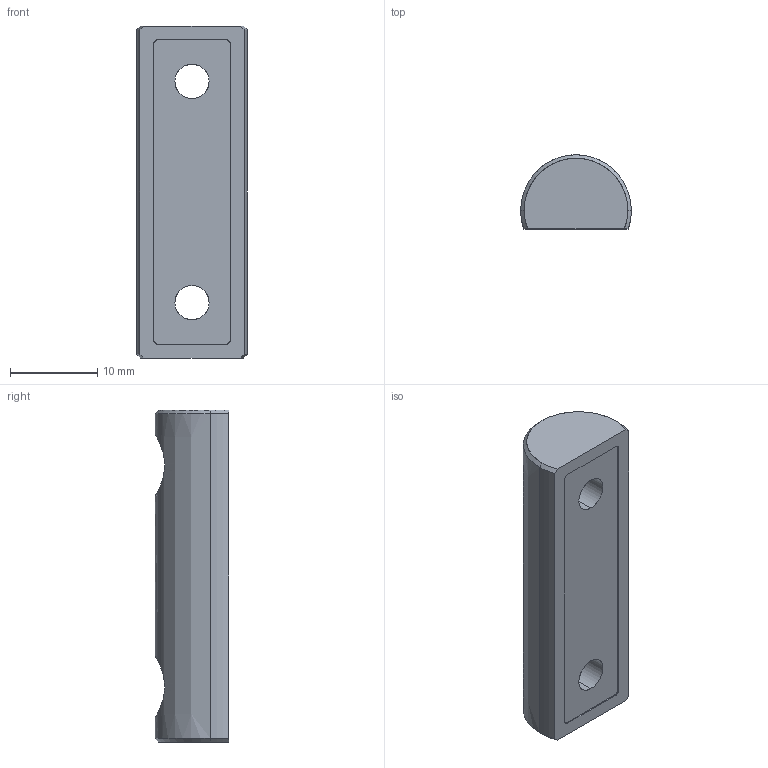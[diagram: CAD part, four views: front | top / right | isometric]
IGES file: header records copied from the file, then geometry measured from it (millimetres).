
Start section: SolidWorks IGES file using analytic representation for surfaces
Global section: file name: D:\Solid_parts\MECHeDESIGN\Bal-Tec\Catalog 105-A\Distribution\IGES\500-TCR-CB.IGS; native system: SolidWorks 2005 by SolidWorks Corporation; preprocessor: SolidWorks 2005 by SolidWorks Corporation; author: rvillegas; date: 061205.190528; units: inch
Bounding box: 12.7 x 8.48 x 38.1 mm (x, y, z)
Surface area: 1761 mm2 (no closed solid volume)
Topology: 0 solids, 0 shells, 31 faces, 518 edges, 518 vertices
Faces by surface type: revolution 21, bspline 10
